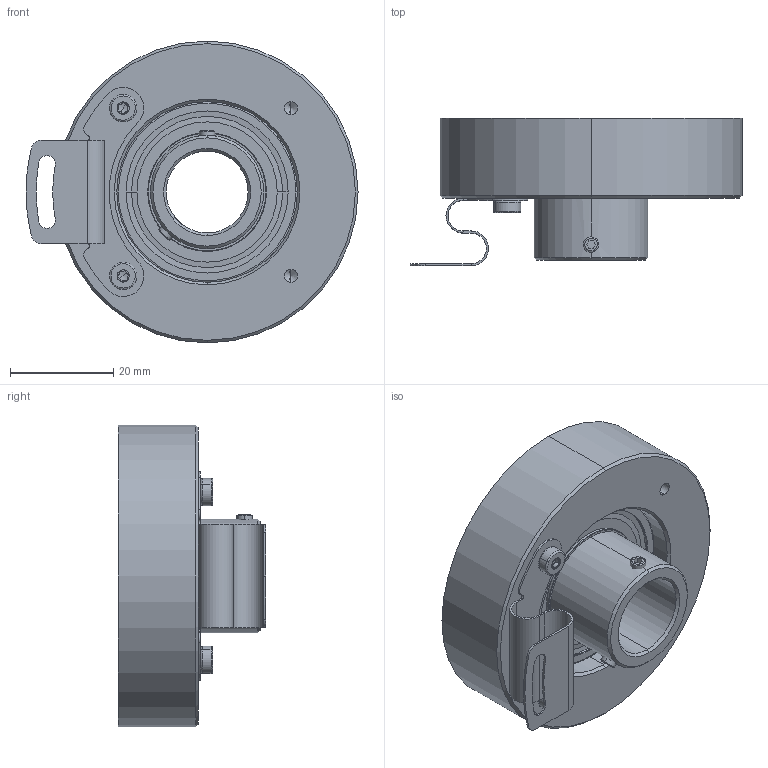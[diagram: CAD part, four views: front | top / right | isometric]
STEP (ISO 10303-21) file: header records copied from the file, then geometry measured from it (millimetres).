
FILE_DESCRIPTION (( 'STEP AP214' ), '1' );
FILE_NAME ('drawing ucd-xut0-q5b-n.STEP', '2017-05-24T14:45:03', ( '' ), ( '' ), 'SwSTEP 2.0', 'SolidWorks 2017', '' );
FILE_SCHEMA (( 'AUTOMOTIVE_DESIGN' ));
Length unit declared in the file: millimetre
Products named in the file (1): drawing ucd-xut0-q5b-n
Bounding box: 64.35 x 28.6 x 58.5 mm (x, y, z)
Volume: 36136.6 mm3; surface area: 21767.7 mm2
Topology: 20 solids, 20 shells, 467 faces, 1067 edges, 598 vertices
Faces by surface type: cone 184, cylinder 147, plane 66, bspline 50, torus 20
Entity records: 19446 total; most frequent: CARTESIAN_POINT 3839, DIRECTION 2319, ORIENTED_EDGE 2022, EDGE_CURVE 1011, AXIS2_PLACEMENT_3D 966, VERTEX_POINT 598, CIRCLE 548, EDGE_LOOP 501
